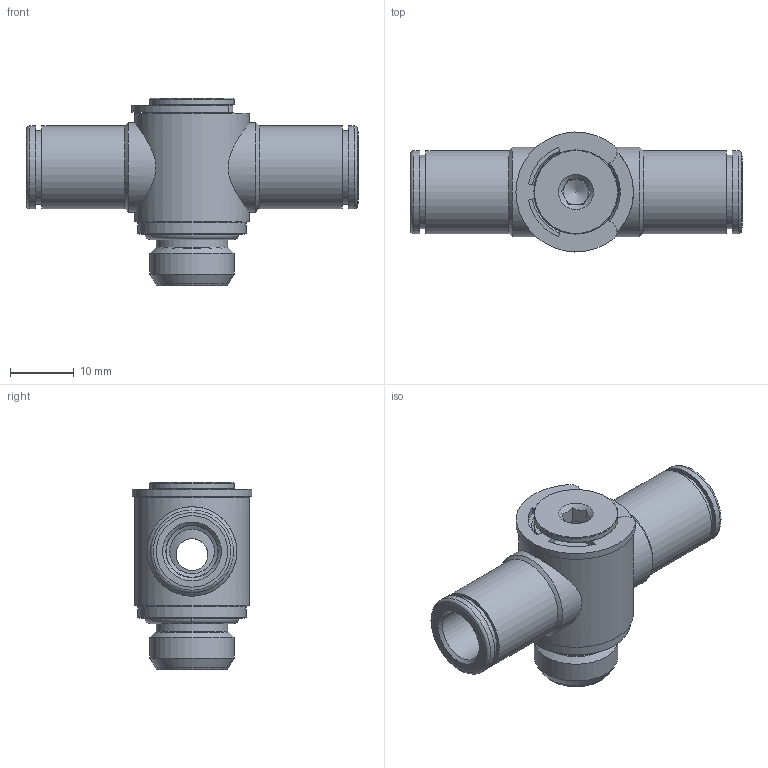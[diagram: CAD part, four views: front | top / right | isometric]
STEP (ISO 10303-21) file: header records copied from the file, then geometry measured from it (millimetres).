
FILE_DESCRIPTION(('Bauteilbeschreibung','HiCAD-Model','HiCAD-STEP-TRANSLATION','Bauteilbeschreibung'),'2;1');
FILE_NAME('B:/ABGLEICH/ZEICHNUNGEN/STEP FÜR INTERNET/STEP/201508_IPSO_016_8_1-4.STP','2011-08-19T12:18:39+00:00',('Konstrukteur'),('Konstrukteur Firma GmbH'),' HiCAD neXt 2008, Step 3.1.1401.2J ','HiCAD neXt 2008','confidential');
FILE_SCHEMA(('AUTOMOTIVE_DESIGN { 1 2 10303 214 0 1 1 1 }'));
Length unit declared in the file: millimetre
Products named in the file (9): A01508_IPSO_016_8_1_4; OR 11_11X1_78; A00053; A14503; A145030; G 1_4; DR8_1_NEU; DR8010NEU; R201308_N
Assembly tree (8 placements, depth 3):
  A01508_IPSO_016_8_1_4
    OR 11_11X1_78
    A00053
    A14503
    A145030
      G 1_4
    DR8_1_NEU
    DR8010NEU
    R201308_N
Bounding box: 52 x 18.79 x 29.3 mm (x, y, z)
Volume: 7010.7 mm3; surface area: 8851.2 mm2
Topology: 7 solids, 7 shells, 128 faces, 279 edges, 170 vertices
Faces by surface type: cylinder 44, plane 39, cone 36, torus 9
Full cylindrical faces by diameter (mm): 4 x1, 5 x2, 7 x2, 7.8 x1, 8.1 x2, 8.2 x2, 9 x1, 10.1 x2, 11 x2, 11.2 x1, 11.445 x2, 11.5 x2, 11.6 x2, 13 x4, 13.157 x1, 13.2 x2, 13.3 x2, 14 x3, 17 x1, 18 x1
Entity records: 9309 total; most frequent: CARTESIAN_POINT 5814, DIRECTION 570, ORIENTED_EDGE 362, AXIS2_PLACEMENT_3D 263, EDGE_LOOP 230, EDGE_CURVE 181, COLOUR_RGB 168, PRESENTATION_STYLE_ASSIGNMENT 168
